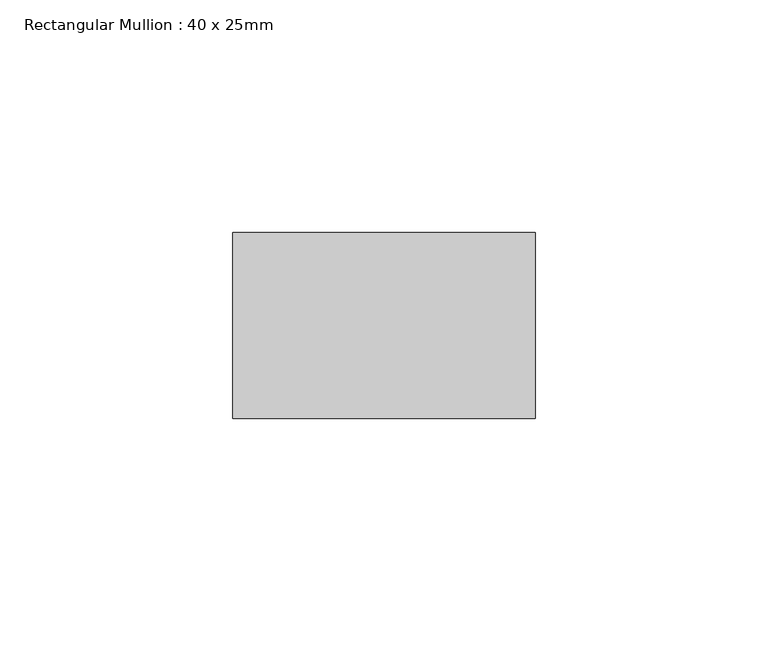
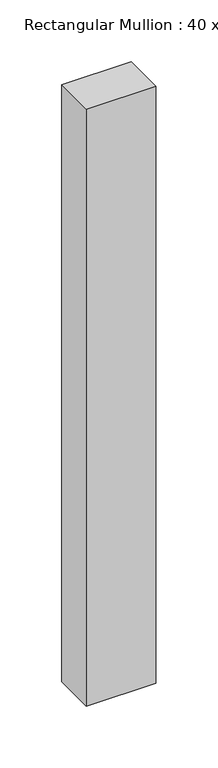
"""IFC4 building model written with IfcOpenShell, lengths in millimetres: member geometry, Rectangular Mullion : 40 x 25mm."""

from ifc_helpers import new_model, si_unit, frame, origin, place, context, project, spatial, polyline, outline, extrude, source, transform, mapped, element, save


def rectangular_mullion_40_x_25mm_62b4a720(model_context):
    return source(origin(), model_context, "Body", "SweptSolid", [
        extrude(outline(polyline([(40.0, -20.0), (40.0, -60.0), (-25.0, -60.0), (-25.0, -20.0), (40.0, -20.0)])), frame((0.0, 0.0, -590.0), z_axis=(0.0, 0.0, 1.0), x_axis=(1.0, 0.0, 0.0)), (0.0, 0.0, 1.0), 590.0),
    ])


if __name__ == "__main__":
    model = new_model("IFC4")
    model_context = context("Model", 3, world=origin())
    ifc_project = project(units=[si_unit("LENGTHUNIT", "METRE", prefix="MILLI")], contexts=[model_context])
    site = spatial("IfcSite", under=ifc_project)
    building = spatial("IfcBuilding", under=site)
    placement = place(None, origin())
    rectangular_mullion_40_x_25mm_shape = rectangular_mullion_40_x_25mm_62b4a720(model_context)
    element("IfcMember", 1, ObjectType="Rectangular Mullion : 40 x 25mm", at=placement, inside=building, context=model_context, shape_type="MappedRepresentation", body=[
        mapped(rectangular_mullion_40_x_25mm_shape, transform((0.0, 0.0, 0.0), x_axis=(1.0, 0.0, 0.0), y_axis=(0.0, 1.0, 0.0), z_axis=(0.0, 0.0, 1.0))),
    ])
    save(model, "model.ifc")
